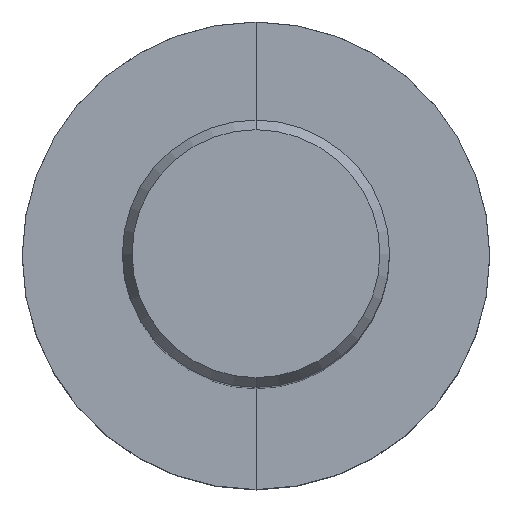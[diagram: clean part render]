
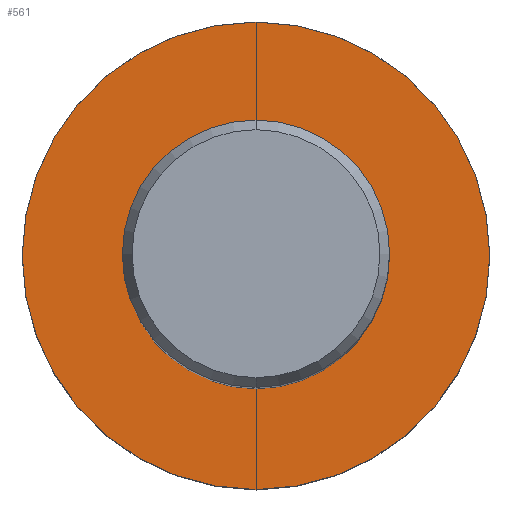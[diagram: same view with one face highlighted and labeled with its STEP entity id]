
A CAD part, top view. The second image highlights one B-rep face of the part: STEP entity #561.
In plain terms, the highlighted planar face has unit normal (0, 0, 1).
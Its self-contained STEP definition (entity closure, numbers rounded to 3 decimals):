
#219=EDGE_CURVE('',#549,#397,#607,.T.);
#343=EDGE_CURVE('',#445,#433,#747,.T.);
#365=EDGE_CURVE('',#397,#549,#772,.T.);
#397=VERTEX_POINT('',#806);
#433=VERTEX_POINT('',#847);
#445=VERTEX_POINT('',#862);
#483=EDGE_CURVE('',#433,#445,#901,.T.);
#549=VERTEX_POINT('',#973);
#561=ADVANCED_FACE('',(#986,#987),#988,.T.);
#607=CIRCLE('',#1028,13.995);
#747=CIRCLE('',#1358,6.5);
#772=CIRCLE('',#1390,13.995);
#806=CARTESIAN_POINT('',(0.,-13.995,-73.0));
#847=CARTESIAN_POINT('',(0.,-6.5,-73.0));
#862=CARTESIAN_POINT('',(0.0,6.5,-73.0));
#901=CIRCLE('',#1671,6.5);
#973=CARTESIAN_POINT('',(0.0,13.995,-73.0));
#986=FACE_OUTER_BOUND('',#1799,.T.);
#987=FACE_BOUND('',#1800,.T.);
#988=PLANE('',#1801);
#1028=AXIS2_PLACEMENT_3D('',#1847,#1848,#1849);
#1358=AXIS2_PLACEMENT_3D('',#2022,#2023,#2024);
#1390=AXIS2_PLACEMENT_3D('',#2052,#2053,#2054);
#1671=AXIS2_PLACEMENT_3D('',#2197,#2198,#2199);
#1799=EDGE_LOOP('',(#2290,#2291));
#1800=EDGE_LOOP('',(#2292,#2293));
#1801=AXIS2_PLACEMENT_3D('',#2294,#2295,#2296);
#1847=CARTESIAN_POINT('',(0.0,0.0,-73.0));
#1848=DIRECTION('',(0.0,0.0,-1.0));
#1849=DIRECTION('',(0.0,1.0,0.0));
#2022=CARTESIAN_POINT('',(0.0,0.0,-73.0));
#2023=DIRECTION('',(0.0,0.0,-1.0));
#2024=DIRECTION('',(0.0,1.0,0.0));
#2052=CARTESIAN_POINT('',(0.0,0.0,-73.0));
#2053=DIRECTION('',(0.0,0.0,-1.0));
#2054=DIRECTION('',(0.0,1.0,0.0));
#2197=CARTESIAN_POINT('',(0.0,0.0,-73.0));
#2198=DIRECTION('',(0.0,0.0,-1.0));
#2199=DIRECTION('',(0.0,1.0,0.0));
#2290=ORIENTED_EDGE('',*,*,#219,.F.);
#2291=ORIENTED_EDGE('',*,*,#365,.F.);
#2292=ORIENTED_EDGE('',*,*,#343,.T.);
#2293=ORIENTED_EDGE('',*,*,#483,.T.);
#2294=CARTESIAN_POINT('',(0.0,10.247,-73.0));
#2295=DIRECTION('',(-0.0,0.0,1.0));
#2296=DIRECTION('',(0.0,-1.0,0.0));
